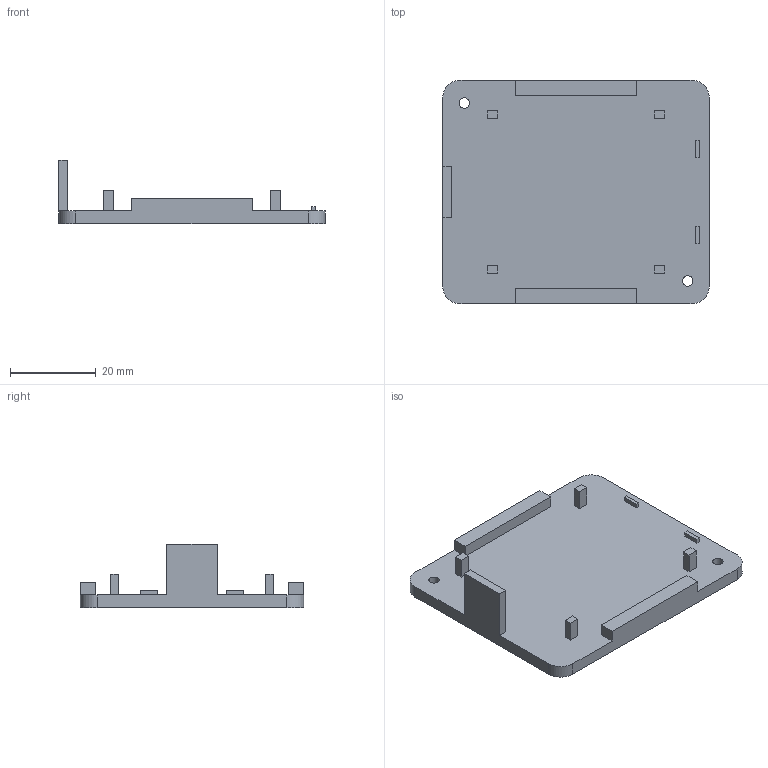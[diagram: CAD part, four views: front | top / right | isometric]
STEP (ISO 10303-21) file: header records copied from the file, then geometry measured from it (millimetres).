
FILE_DESCRIPTION(('Open CASCADE Model'),'2;1');
FILE_NAME('Open CASCADE Shape Model','2026-11-08T19:31:44',('Author'),( 'Open CASCADE'),'Open CASCADE STEP processor 7.8','Open CASCADE 7.8' ,'Unknown');
FILE_SCHEMA(('AUTOMOTIVE_DESIGN { 1 0 10303 214 1 1 1 1 }'));
Length unit declared in the file: millimetre
Products named in the file (1): Open CASCADE STEP translator 7.8 2
Bounding box: 62 x 52 x 14.8 mm (x, y, z)
Volume: 10526.5 mm3; surface area: 7964.9 mm2
Topology: 1 solids, 1 shells, 56 faces, 142 edges, 94 vertices
Faces by surface type: plane 48, cylinder 6, cone 2
Full cylindrical faces by diameter (mm): 2.4 x2
Entity records: 3540 total; most frequent: CARTESIAN_POINT 601, DIRECTION 550, LINE 400, VECTOR 400, ORIENTED_EDGE 284, PCURVE 284, DEFINITIONAL_REPRESENTATION 284, EDGE_CURVE 142
